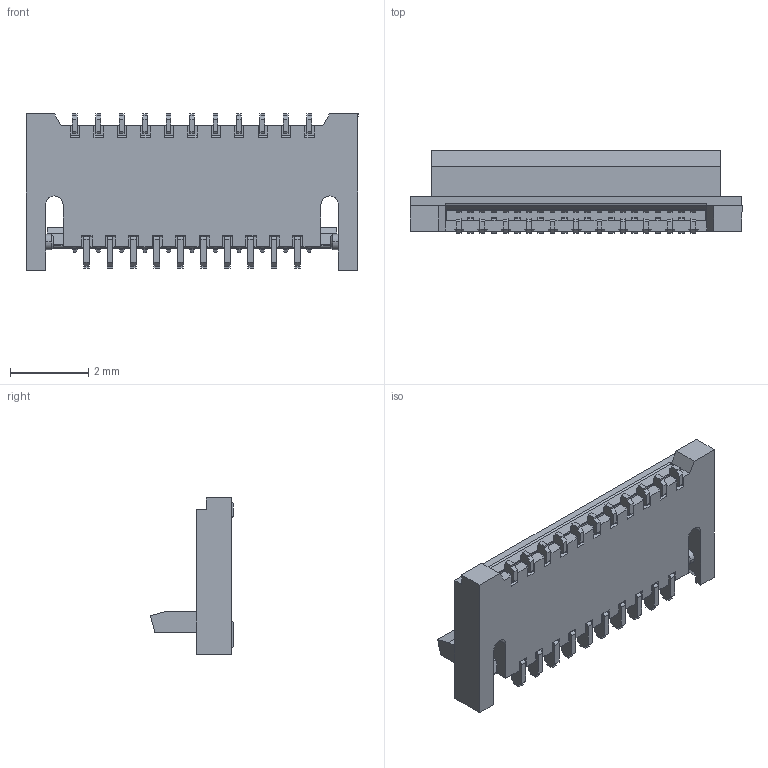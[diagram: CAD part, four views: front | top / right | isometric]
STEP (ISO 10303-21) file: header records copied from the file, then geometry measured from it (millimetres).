
FILE_DESCRIPTION (( 'STEP AP203' ), '1' );
FILE_NAME ('FF12-21A-R11B(OPEN).STEP', '2007-01-16T06:28:12', ( '' ), ( '' ), 'SwSTEP 2.0', 'SolidWorks 2006303', '' );
FILE_SCHEMA (( 'CONFIG_CONTROL_DESIGN' ));
Length unit declared in the file: millimetre
Products named in the file (1): FF12-21A-R11B(OPEN)
Bounding box: 8.5 x 2.12 x 4 mm (x, y, z)
Volume: 24.5 mm3; surface area: 153.1 mm2
Topology: 1 solids, 1 shells, 992 faces, 3072 edges, 2039 vertices
Faces by surface type: plane 843, cylinder 146, cone 3
Entity records: 34022 total; most frequent: CARTESIAN_POINT 6212, ORIENTED_EDGE 6144, DIRECTION 5329, EDGE_CURVE 3072, LINE 2741, VECTOR 2741, VERTEX_POINT 2039, AXIS2_PLACEMENT_3D 1294
